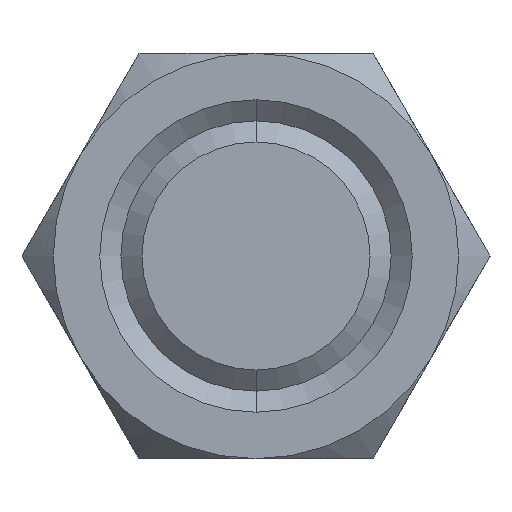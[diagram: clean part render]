
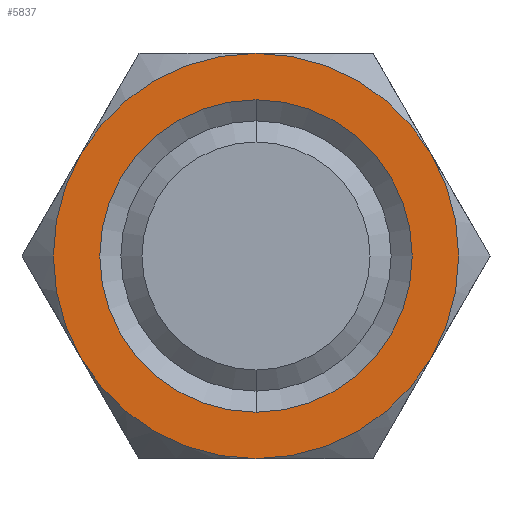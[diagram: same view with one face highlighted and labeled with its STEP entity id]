
A CAD part, front view. The second image highlights one B-rep face of the part: STEP entity #5837.
In plain terms, the highlighted planar face has unit normal (0, -1, 0).
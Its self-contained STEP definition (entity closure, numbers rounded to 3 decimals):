
#5834 = EDGE_LOOP ( 'NONE', ( #5838, #5899, #5904, #5839, #5914, #5917 ) ) ;
#5837 = ADVANCED_FACE ( 'NONE', ( #16954, #16953 ), #16952, .F. ) ;
#5838 = ORIENTED_EDGE ( 'NONE', *, *, #5909, .F. ) ;
#5839 = ORIENTED_EDGE ( 'NONE', *, *, #5840, .F. ) ;
#5840 = EDGE_CURVE ( 'NONE', #5841, #5906, #16949, .T. ) ;
#5841 = VERTEX_POINT ( 'NONE', #16942 ) ;
#5857 = VERTEX_POINT ( 'NONE', #16980 ) ;
#5859 = EDGE_CURVE ( 'NONE', #6164, #5857, #16975, .T. ) ;
#5876 = EDGE_CURVE ( 'NONE', #5857, #6164, #17049, .T. ) ;
#5883 = ORIENTED_EDGE ( 'NONE', *, *, #5859, .F. ) ;
#5899 = ORIENTED_EDGE ( 'NONE', *, *, #5900, .F. ) ;
#5900 = EDGE_CURVE ( 'NONE', #5903, #5910, #17077, .T. ) ;
#5903 = VERTEX_POINT ( 'NONE', #17071 ) ;
#5904 = ORIENTED_EDGE ( 'NONE', *, *, #5905, .F. ) ;
#5905 = EDGE_CURVE ( 'NONE', #5906, #5903, #17069, .T. ) ;
#5906 = VERTEX_POINT ( 'NONE', #17064 ) ;
#5909 = EDGE_CURVE ( 'NONE', #5910, #5911, #17062, .T. ) ;
#5910 = VERTEX_POINT ( 'NONE', #17120 ) ;
#5911 = VERTEX_POINT ( 'NONE', #17119 ) ;
#5914 = ORIENTED_EDGE ( 'NONE', *, *, #5915, .T. ) ;
#5915 = EDGE_CURVE ( 'NONE', #5841, #5916, #17109, .T. ) ;
#5916 = VERTEX_POINT ( 'NONE', #17110 ) ;
#5917 = ORIENTED_EDGE ( 'NONE', *, *, #5955, .F. ) ;
#5940 = ORIENTED_EDGE ( 'NONE', *, *, #5876, .F. ) ;
#5948 = EDGE_LOOP ( 'NONE', ( #5940, #5883 ) ) ;
#5955 = EDGE_CURVE ( 'NONE', #5911, #5916, #17224, .T. ) ;
#6164 = VERTEX_POINT ( 'NONE', #17684 ) ;
#16942 = CARTESIAN_POINT ( 'NONE',  ( 0., 0., -18. ) ) ;
#16943 = DIRECTION ( 'NONE',  ( 0., 0., 1. ) ) ;
#16944 = DIRECTION ( 'NONE',  ( 0., 1., 0. ) ) ;
#16945 = CARTESIAN_POINT ( 'NONE',  ( 0., 0., 0. ) ) ;
#16946 = AXIS2_PLACEMENT_3D ( 'NONE', #16945, #16944, #16943 ) ;
#16947 = DIRECTION ( 'NONE',  ( 0., 0., 1. ) ) ;
#16948 = DIRECTION ( 'NONE',  ( 0., 1., 0. ) ) ;
#16949 = CIRCLE ( 'NONE', #16946, 18. ) ;
#16950 = CARTESIAN_POINT ( 'NONE',  ( 20.785, 0., 0. ) ) ;
#16951 = AXIS2_PLACEMENT_3D ( 'NONE', #16950, #16948, #16947 ) ;
#16952 = PLANE ( 'NONE',  #16951 ) ;
#16953 = FACE_BOUND ( 'NONE', #5948, .T. ) ;
#16954 = FACE_OUTER_BOUND ( 'NONE', #5834, .T. ) ;
#16971 = DIRECTION ( 'NONE',  ( 0., 0., -1. ) ) ;
#16972 = DIRECTION ( 'NONE',  ( 0., -1., 0. ) ) ;
#16973 = CARTESIAN_POINT ( 'NONE',  ( 0., 0., 0. ) ) ;
#16974 = AXIS2_PLACEMENT_3D ( 'NONE', #16973, #16972, #16971 ) ;
#16975 = CIRCLE ( 'NONE', #16974, 13.873 ) ;
#16980 = CARTESIAN_POINT ( 'NONE',  ( 0., 0., -13.873 ) ) ;
#17000 = CARTESIAN_POINT ( 'NONE',  ( 0., 0., 0. ) ) ;
#17046 = DIRECTION ( 'NONE',  ( 0., 0., -1. ) ) ;
#17047 = DIRECTION ( 'NONE',  ( 0., -1., 0. ) ) ;
#17048 = AXIS2_PLACEMENT_3D ( 'NONE', #17000, #17047, #17046 ) ;
#17049 = CIRCLE ( 'NONE', #17048, 13.873 ) ;
#17059 = DIRECTION ( 'NONE',  ( 0., 1., 0. ) ) ;
#17060 = CARTESIAN_POINT ( 'NONE',  ( 0., 0., 0. ) ) ;
#17061 = AXIS2_PLACEMENT_3D ( 'NONE', #17060, #17059, #17121 ) ;
#17062 = CIRCLE ( 'NONE', #17061, 18. ) ;
#17064 = CARTESIAN_POINT ( 'NONE',  ( -15.588, 0., -9. ) ) ;
#17065 = DIRECTION ( 'NONE',  ( 0., 0., 1. ) ) ;
#17066 = DIRECTION ( 'NONE',  ( 0., 1., 0. ) ) ;
#17067 = CARTESIAN_POINT ( 'NONE',  ( 0., 0., 0. ) ) ;
#17068 = AXIS2_PLACEMENT_3D ( 'NONE', #17067, #17066, #17065 ) ;
#17069 = CIRCLE ( 'NONE', #17068, 18. ) ;
#17071 = CARTESIAN_POINT ( 'NONE',  ( -15.588, 0., 9. ) ) ;
#17073 = DIRECTION ( 'NONE',  ( 0., 0., 1. ) ) ;
#17074 = DIRECTION ( 'NONE',  ( 0., 1., 0. ) ) ;
#17075 = CARTESIAN_POINT ( 'NONE',  ( 0., 0., 0. ) ) ;
#17076 = AXIS2_PLACEMENT_3D ( 'NONE', #17075, #17074, #17073 ) ;
#17077 = CIRCLE ( 'NONE', #17076, 18. ) ;
#17105 = DIRECTION ( 'NONE',  ( 0., 0., -1. ) ) ;
#17106 = DIRECTION ( 'NONE',  ( 0., -1., 0. ) ) ;
#17107 = CARTESIAN_POINT ( 'NONE',  ( 0., 0., 0. ) ) ;
#17108 = AXIS2_PLACEMENT_3D ( 'NONE', #17107, #17106, #17105 ) ;
#17109 = CIRCLE ( 'NONE', #17108, 18. ) ;
#17110 = CARTESIAN_POINT ( 'NONE',  ( 15.588, 0., -9. ) ) ;
#17119 = CARTESIAN_POINT ( 'NONE',  ( 15.588, 0., 9. ) ) ;
#17120 = CARTESIAN_POINT ( 'NONE',  ( 0., 0., 18. ) ) ;
#17121 = DIRECTION ( 'NONE',  ( 0., 0., 1. ) ) ;
#17221 = DIRECTION ( 'NONE',  ( 0., 0., 1. ) ) ;
#17222 = DIRECTION ( 'NONE',  ( 0., 1., 0. ) ) ;
#17223 = AXIS2_PLACEMENT_3D ( 'NONE', #17228, #17222, #17221 ) ;
#17224 = CIRCLE ( 'NONE', #17223, 18. ) ;
#17228 = CARTESIAN_POINT ( 'NONE',  ( 0., 0., 0. ) ) ;
#17684 = CARTESIAN_POINT ( 'NONE',  ( 0., 0., 13.873 ) ) ;
